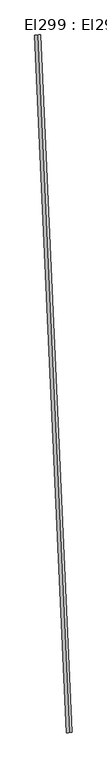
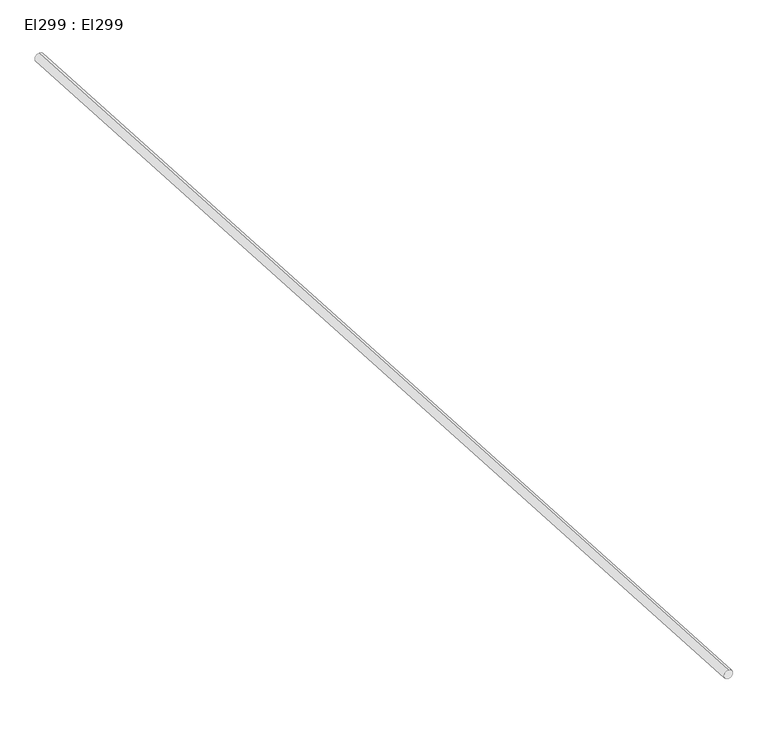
"""IFC4 building model written with IfcOpenShell, lengths in millimetres: cable carrier segment geometry, El299 : El299."""

from ifc_helpers import new_model, si_unit, point, frame, frame_2d, origin, place, context, project, spatial, circle_curve, trimmed, segment, composite_curve, outline, extrude, source, transform, mapped, element, save


def el299_el299_3c387015(model_context):
    return source(origin(), model_context, "Body", "SweptSolid", [
        extrude(outline(composite_curve([segment(trimmed(circle_curve(frame_2d((0.0, -9.5)), 9.5), [point((0.0, -19.0))], [point((0.0, 0.0))], False, "CARTESIAN"), True, "CONTINUOUS"), segment(trimmed(circle_curve(frame_2d((0.0, -9.5)), 9.5), [point((0.0, 0.0))], [point((0.0, -19.0))], False, "CARTESIAN"), True, "CONTINUOUS")], self_intersect=False)), frame((22328.8508, 12413.02, 2959.5), z_axis=(-0.04571731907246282, 0.9989544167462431, 0.0), x_axis=(-0.9989544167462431, -0.04571731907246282, 0.0)), (0.0, 0.0, 1.0), 2355.82),
    ])


if __name__ == "__main__":
    model = new_model("IFC4")
    model_context = context("Model", 3, world=origin())
    ifc_project = project(units=[si_unit("LENGTHUNIT", "METRE", prefix="MILLI")], contexts=[model_context])
    site = spatial("IfcSite", under=ifc_project)
    building = spatial("IfcBuilding", under=site)
    placement = place(None, origin())
    el299_el299_shape = el299_el299_3c387015(model_context)
    element("IfcCableCarrierSegment", 1, ObjectType="El299 : El299", at=placement, inside=building, context=model_context, shape_type="MappedRepresentation", body=[
        mapped(el299_el299_shape, transform((0.0, 0.0, 0.0), x_axis=(1.0, 0.0, 0.0), y_axis=(0.0, 1.0, 0.0), z_axis=(0.0, 0.0, 1.0))),
    ])
    save(model, "model.ifc")
